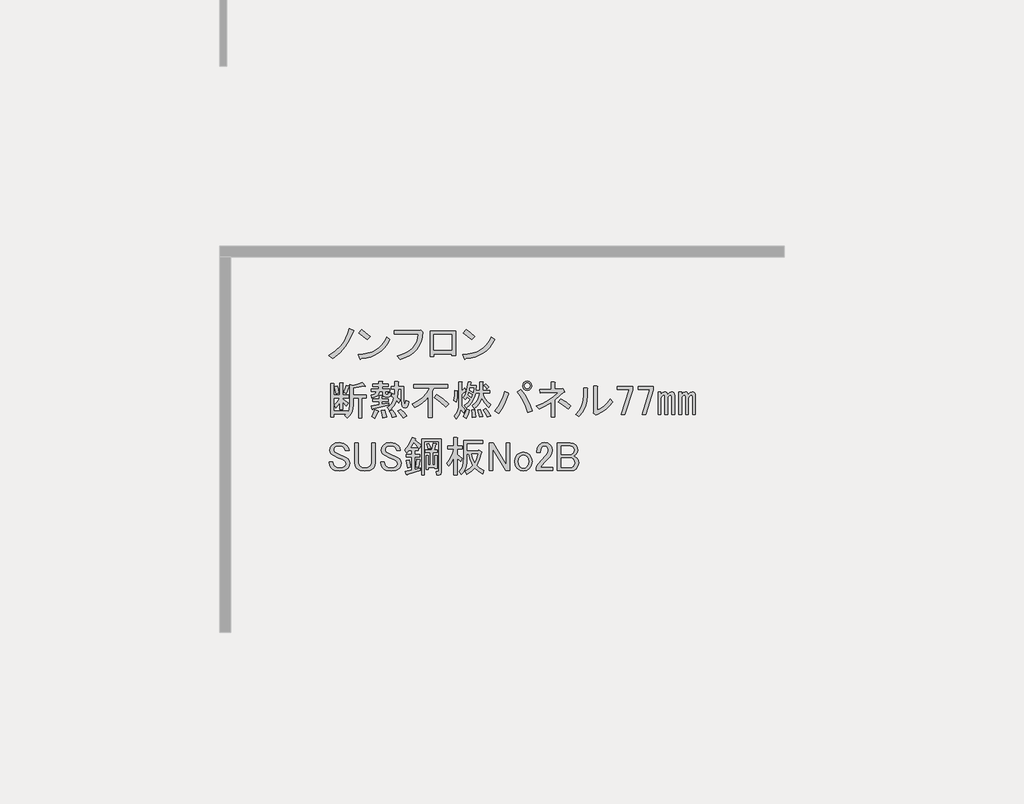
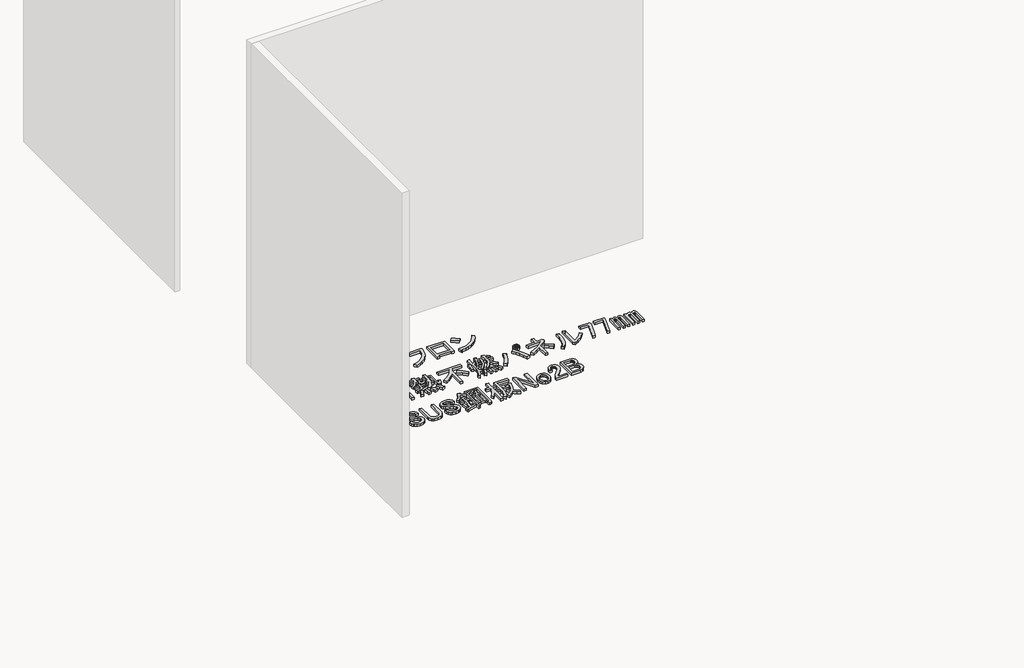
# One storey, part 27 of 117: 1 proxy.
"""IFC4 building model written with IfcOpenShell, lengths in millimetres."""

from ifc_helpers import new_model, si_unit, frame, origin, place, context, project, spatial, polyline, outline, extrude, element, save

model = new_model("IFC4")

# Units and contexts
model_context = context("Model", 3, world=origin())
ifc_project = project(units=[si_unit("LENGTHUNIT", "METRE", prefix="MILLI")], contexts=[model_context])

# Site, building, storey
site = spatial("IfcSite", under=ifc_project)
building = spatial("IfcBuilding", under=site)
storey = spatial("IfcBuildingStorey", under=building, Name="レベル 1", Elevation=500.0)

# Proxy
placement = place(None, origin())
element("IfcBuildingElementProxy", 1, Name="200㎜\u3000MS Pゴシック", ObjectType="200㎜\u3000MS Pゴシック", at=placement, inside=storey, context=model_context, shape_type="SweptSolid", body=[
    extrude(outline(polyline([(8943.6706985, -28607.0496882), (8918.0952502, -28666.8215225), (8889.646156, -28712.7998566), (8847.9782907, -28758.2034615), (8798.8389462, -28795.560858), (8771.2519457, -28773.7211493), (8818.9544673, -28743.2605029), (8858.6107805, -28704.7536481), (8875.9963381, -28680.8305462), (8891.3703435, -28652.7406577), (8904.7327969, -28620.4839827), (8916.0836981, -28584.0605212), (8947.1190736, -28597.8540214), (8950.2800841, -28602.4518548), (8943.6706985, -28607.0496882)])), frame((0.0, 0.0, 500.0), z_axis=(0.0, 0.0, 1.0), x_axis=(1.0, 0.0, 0.0)), (0.0, 0.0, 1.0), 25.0),
    extrude(outline(polyline([(9043.3977052, -28662.2236891), (8984.7753292, -28615.0958967), (9004.3161212, -28590.9572713), (9031.6157571, -28610.7854279), (9065.2374138, -28640.3839804), (9043.3977052, -28662.2236891)])), frame((0.0, 0.0, 500.0), z_axis=(0.0, 0.0, 1.0), x_axis=(1.0, 0.0, 0.0)), (0.0, 0.0, 1.0), 25.0),
    extrude(outline(polyline([(9205.4713328, -28662.2236891), (9188.947869, -28691.965924), (9169.8381239, -28717.9724192), (9148.1420975, -28740.2431748), (9123.8597898, -28758.7781907), (9096.9912008, -28773.577467), (9067.5363306, -28784.6410036), (9035.495179, -28791.9688006), (9000.8677461, -28795.560858), (8995.1204544, -28803.6070664), (8989.3731626, -28797.8597747), (8980.1774958, -28767.9738575), (9016.0082679, -28765.2977748), (9048.7857912, -28758.9937141), (9078.5100658, -28749.0616756), (9105.1810916, -28735.5016591), (9128.7988687, -28718.3136646), (9149.363397, -28697.4976923), (9166.8746766, -28673.053742), (9181.3327074, -28644.9818138), (9205.4713328, -28662.2236891)])), frame((0.0, 0.0, 500.0), z_axis=(0.0, 0.0, 1.0), x_axis=(1.0, 0.0, 0.0)), (0.0, 0.0, 1.0), 25.0),
    extrude(outline(polyline([(9256.2314136, -28777.1695243), (9290.014713, -28767.4889298), (9319.5234641, -28755.1142922), (9344.757667, -28740.0456116), (9365.7173217, -28722.282888), (9382.402428, -28701.8261214), (9394.8129862, -28678.6753118), (9402.9489961, -28652.8304591), (9406.8104577, -28624.2915635), (9234.3917049, -28624.2915635), (9234.3917049, -28599.0034798), (9409.1093744, -28599.0034798), (9425.2017914, -28595.5551047), (9437.8458332, -28607.0496882), (9434.325617, -28643.5449909), (9426.0638851, -28676.5919185), (9413.0606375, -28706.1904711), (9395.3158742, -28732.3406486), (9372.8295952, -28755.042451), (9345.6018005, -28774.2958784), (9313.6324901, -28790.1009308), (9276.921664, -28802.4576081), (9256.2314136, -28777.1695243)])), frame((0.0, 0.0, 500.0), z_axis=(0.0, 0.0, 1.0), x_axis=(1.0, 0.0, 0.0)), (0.0, 0.0, 1.0), 25.0),
    extrude(outline(polyline([(9670.955987, -28776.020066), (9644.5184449, -28776.020066), (9644.5184449, -28763.3760241), (9516.9285679, -28763.3760241), (9516.9285679, -28781.7673577), (9490.4910258, -28781.7673577), (9490.4910258, -28602.4518548), (9670.955987, -28602.4518548), (9670.955987, -28776.020066)]), holes=[polyline([(9516.9285679, -28627.7399386), (9516.9285679, -28738.0879404), (9644.5184449, -28738.0879404), (9644.5184449, -28627.7399386), (9516.9285679, -28627.7399386)])]), frame((0.0, 0.0, 500.0), z_axis=(0.0, 0.0, 1.0), x_axis=(1.0, 0.0, 0.0)), (0.0, 0.0, 1.0), 25.0),
    extrude(outline(polyline([(9947.0099049, -28662.2236891), (9930.4864411, -28691.965924), (9911.376696, -28717.9724192), (9889.6806696, -28740.2431748), (9865.3983619, -28758.7781907), (9838.5297729, -28773.577467), (9809.0749026, -28784.6410036), (9777.0337511, -28791.9688006), (9742.4063182, -28795.560858), (9736.6590264, -28803.6070664), (9730.9117347, -28797.8597747), (9721.7160679, -28767.9738575), (9757.5468399, -28765.2977748), (9790.3243633, -28758.9937141), (9820.0486378, -28749.0616756), (9846.7196637, -28735.5016591), (9870.3374407, -28718.3136646), (9890.9019691, -28697.4976923), (9908.4132486, -28673.053742), (9922.8712795, -28644.9818138), (9947.0099049, -28662.2236891)])), frame((0.0, 0.0, 500.0), z_axis=(0.0, 0.0, 1.0), x_axis=(1.0, 0.0, 0.0)), (0.0, 0.0, 1.0), 25.0),
    extrude(outline(polyline([(9784.9362772, -28662.2236891), (9726.3139013, -28615.0958967), (9745.8546933, -28590.9572713), (9773.1543291, -28610.7854279), (9806.7759859, -28640.3839804), (9784.9362772, -28662.2236891)])), frame((0.0, 0.0, 500.0), z_axis=(0.0, 0.0, 1.0), x_axis=(1.0, 0.0, 0.0)), (0.0, 0.0, 1.0), 25.0),
    extrude(outline(polyline([(8877.0021141, -29039.2345221), (8894.2439894, -28986.3594379), (8914.9342397, -28992.1067296), (8916.6584273, -28995.2677401), (8912.635323, -28997.8540214), (8895.3934477, -29046.1312722), (8877.0021141, -29039.2345221)])), frame((0.0, 0.0, 500.0), z_axis=(0.0, 0.0, 1.0), x_axis=(1.0, 0.0, 0.0)), (0.0, 0.0, 1.0), 25.0),
    extrude(outline(polyline([(9031.0295333, -28990.9572713), (9029.3053458, -28995.5551047), (9021.8338665, -28993.256188), (8944.8201569, -29005.9002299), (8944.8201569, -29055.326939), (9036.7768251, -29055.326939), (9036.7768251, -29077.1666477), (9005.7414495, -29077.1666477), (9005.7414495, -29217.4005666), (8982.7522825, -29217.4005666), (8982.7522825, -29077.1666477), (8944.8201569, -29077.1666477), (8944.8201569, -29126.5933568), (8942.2338756, -29154.3958807), (8934.4750317, -29179.1810764), (8921.5436253, -29200.948944), (8903.4396562, -29219.6994833), (8886.1977809, -29200.1586914), (8896.5429061, -29190.9630245), (8806.8851546, -29190.9630245), (8806.8851546, -29212.8027332), (8783.8959876, -29212.8027332), (8783.8959876, -28973.715396), (8805.7356963, -28973.715396), (8810.6208943, -28976.0143127), (8806.8851546, -28980.6121461), (8806.8851546, -29056.4763974), (8849.4151137, -29056.4763974), (8849.4151137, -28969.1175626), (8867.8064473, -28969.1175626), (8872.6916453, -28971.4164793), (8868.9559057, -28976.0143127), (8868.9559057, -29056.4763974), (8912.635323, -29056.4763974), (8912.635323, -29074.867731), (8868.9559057, -29074.867731), (8868.9559057, -29084.0633978), (8909.186948, -29110.5009399), (8895.3934477, -29132.3406486), (8868.9559057, -29105.9031065), (8868.9559057, -29158.7781907), (8849.4151137, -29158.7781907), (8849.4151137, -29110.5009399), (8836.1963426, -29130.3290965), (8821.8281132, -29146.1341488), (8809.1840713, -29127.7428152), (8831.02378, -29103.6041898), (8848.2656553, -29074.867731), (8806.8851546, -29074.867731), (8806.8851546, -29169.1233159), (8904.5891146, -29169.1233159), (8904.5891146, -29182.9168161), (8917.520521, -29158.7781907), (8921.8309898, -29125.4438985), (8921.8309898, -28980.6121461), (8943.6706985, -28986.3594379), (8979.8786366, -28978.8879586), (9010.339283, -28965.6691875), (9031.0295333, -28990.9572713)])), frame((0.0, 0.0, 500.0), z_axis=(0.0, 0.0, 1.0), x_axis=(1.0, 0.0, 0.0)), (0.0, 0.0, 1.0), 25.0),
    extrude(outline(polyline([(8822.9775716, -29047.2807305), (8810.3335297, -28996.7045631), (8829.8743217, -28989.8078129), (8837.6331656, -29013.9464383), (8842.5183636, -29040.3839804), (8822.9775716, -29047.2807305)])), frame((0.0, 0.0, 500.0), z_axis=(0.0, 0.0, 1.0), x_axis=(1.0, 0.0, 0.0)), (0.0, 0.0, 1.0), 25.0),
    extrude(outline(polyline([(9121.8367431, -29167.9738575), (9125.2851182, -29172.8590555), (9119.5378264, -29176.020066), (9109.7674304, -29201.5955143), (9098.8475761, -29220.8489417), (9075.858409, -29209.3543582), (9088.5024509, -29185.790462), (9098.8475761, -29158.7781907), (9121.8367431, -29167.9738575)])), frame((0.0, 0.0, 500.0), z_axis=(0.0, 0.0, 1.0), x_axis=(1.0, 0.0, 0.0)), (0.0, 0.0, 1.0), 25.0),
    extrude(outline(polyline([(9166.6656188, -29163.3760241), (9176.7233794, -29190.67566), (9181.6085774, -29212.8027332), (9152.8721186, -29218.550025), (9150.2858373, -29196.9976809), (9142.5269934, -29166.8243992), (9166.6656188, -29163.3760241)])), frame((0.0, 0.0, 500.0), z_axis=(0.0, 0.0, 1.0), x_axis=(1.0, 0.0, 0.0)), (0.0, 0.0, 1.0), 25.0),
    extrude(outline(polyline([(9281.611454, -29157.6287323), (9306.3248086, -29178.8937119), (9325.2908714, -29203.6070664), (9298.8533293, -29218.550025), (9279.5999019, -29188.9514724), (9260.9212037, -29169.1233159), (9281.611454, -29157.6287323)])), frame((0.0, 0.0, 500.0), z_axis=(0.0, 0.0, 1.0), x_axis=(1.0, 0.0, 0.0)), (0.0, 0.0, 1.0), 25.0),
    extrude(outline(polyline([(9222.9890781, -29216.2511083), (9214.655505, -29191.5377537), (9201.1493694, -29170.2727742), (9221.8396197, -29162.2265657), (9238.7941304, -29183.7789098), (9250.5760785, -29207.0554415), (9222.9890781, -29216.2511083)])), frame((0.0, 0.0, 500.0), z_axis=(0.0, 0.0, 1.0), x_axis=(1.0, 0.0, 0.0)), (0.0, 0.0, 1.0), 25.0),
    extrude(outline(polyline([(9083.9046175, -29153.0308989), (9081.8930654, -29157.9160969), (9078.1573257, -29156.479274), (9072.410034, -29132.3406486), (9127.5840349, -29124.2944401), (9127.5840349, -29101.3052731), (9083.9046175, -29101.3052731), (9083.9046175, -29082.9139395), (9127.5840349, -29082.9139395), (9127.5840349, -29059.9247724), (9145.9753685, -29059.9247724), (9150.8605665, -29062.2236891), (9147.1248268, -29066.8215225), (9147.1248268, -29082.9139395), (9191.9537026, -29082.9139395), (9191.9537026, -29101.3052731), (9147.1248268, -29101.3052731), (9147.1248268, -29120.8460651), (9197.7009943, -29111.6503983), (9197.7009943, -29127.7428152), (9083.9046175, -29153.0308989)])), frame((0.0, 0.0, 500.0), z_axis=(0.0, 0.0, 1.0), x_axis=(1.0, 0.0, 0.0)), (0.0, 0.0, 1.0), 25.0),
    extrude(outline(polyline([(9154.021577, -29031.1883136), (9128.7334932, -29031.1883136), (9124.1356598, -29048.6457123), (9113.7905346, -29061.9363245), (9097.6981177, -29071.0601502), (9075.858409, -29076.0171893), (9071.2605756, -29056.4763974), (9096.5486594, -29047.8554597), (9104.0201386, -29040.5276627), (9108.0432429, -29031.1883136), (9072.410034, -29031.1883136), (9072.410034, -29012.79698), (9126.4345765, -29012.79698), (9126.4345765, -28995.5551047), (9082.7551591, -28995.5551047), (9082.7551591, -28977.1637711), (9126.4345765, -28977.1637711), (9126.4345765, -28958.7724374), (9148.2742852, -28958.7724374), (9153.1594832, -28961.0713541), (9149.4237436, -28965.6691875), (9149.4237436, -28977.1637711), (9191.9537026, -28977.1637711), (9191.9537026, -28995.5551047), (9149.4237436, -28995.5551047), (9149.4237436, -29012.79698), (9202.2988277, -29012.79698), (9202.2988277, -29031.1883136), (9173.5623689, -29031.1883136), (9173.5623689, -29043.8323555), (9174.9991919, -29049.0049181), (9179.3096607, -29050.7291056), (9189.6547859, -29050.7291056), (9193.3905255, -29047.5680951), (9193.1031609, -29038.0850637), (9212.6439529, -29040.3839804), (9209.770307, -29061.9363245), (9204.4540622, -29067.3244106), (9196.551536, -29069.1204392), (9172.4129106, -29069.1204392), (9158.6194104, -29064.2352412), (9154.021577, -29049.5796472), (9154.021577, -29031.1883136)])), frame((0.0, 0.0, 500.0), z_axis=(0.0, 0.0, 1.0), x_axis=(1.0, 0.0, 0.0)), (0.0, 0.0, 1.0), 25.0),
    extrude(outline(polyline([(9285.0598291, -29013.9464383), (9263.2201204, -29013.9464383), (9258.622287, -29071.4193559), (9278.163079, -29089.8106896), (9267.8179538, -29111.6503983), (9251.7255369, -29095.5579813), (9232.4721095, -29133.2027424), (9202.2988277, -29165.6749408), (9185.0569525, -29144.9846905), (9200.1435933, -29133.0590601), (9213.2186821, -29117.9724192), (9224.2822187, -29099.7247679), (9233.3342033, -29078.316106), (9216.092328, -29063.3731475), (9224.1385364, -29046.1312722), (9237.9320367, -29056.4763974), (9240.2309534, -29013.9464383), (9212.6439529, -29013.9464383), (9212.6439529, -28995.5551047), (9240.2309534, -28995.5551047), (9240.2309534, -28961.0713541), (9262.0706621, -28961.0713541), (9266.95586, -28963.3702708), (9263.2201204, -28967.9681043), (9263.2201204, -28995.5551047), (9304.6006211, -28995.5551047), (9304.6006211, -29092.1096063), (9308.0489961, -29116.2482317), (9311.2818477, -29118.2597838), (9314.0836525, -29115.0987733), (9318.3941213, -29093.2590646), (9337.9349133, -29100.1558147), (9333.408921, -29126.9525626), (9325.578236, -29142.9731384), (9314.4428582, -29148.2175421), (9300.0027877, -29142.6857738), (9293.4652433, -29135.3579768), (9288.7955687, -29123.719711), (9285.0598291, -29087.5117729), (9285.0598291, -29013.9464383)])), frame((0.0, 0.0, 500.0), z_axis=(0.0, 0.0, 1.0), x_axis=(1.0, 0.0, 0.0)), (0.0, 0.0, 1.0), 25.0),
    extrude(outline(polyline([(9373.5681222, -28980.6121461), (9614.9543761, -28980.6121461), (9614.9543761, -29005.9002299), (9514.9514995, -29005.9002299), (9504.6063743, -29030.0388553), (9504.6063743, -29216.2511083), (9478.1688322, -29216.2511083), (9478.1688322, -29069.1204392), (9457.3348996, -29092.3969709), (9433.9146857, -29112.7998566), (9407.9081905, -29130.3290965), (9379.315414, -29144.9846905), (9363.222997, -29118.5471484), (9402.807469, -29098.1442626), (9436.500967, -29072.5688143), (9464.3034909, -29041.8208034), (9486.2150407, -29005.9002299), (9373.5681222, -29005.9002299), (9373.5681222, -28980.6121461)])), frame((0.0, 0.0, 500.0), z_axis=(0.0, 0.0, 1.0), x_axis=(1.0, 0.0, 0.0)), (0.0, 0.0, 1.0), 25.0),
    extrude(outline(polyline([(9600.0114176, -29141.5363154), (9560.9298336, -29103.3168252), (9519.5493329, -29073.7182726), (9535.6417498, -29053.0280223), (9579.3211672, -29081.1897519), (9620.7016679, -29119.6966067), (9600.0114176, -29141.5363154)])), frame((0.0, 0.0, 500.0), z_axis=(0.0, 0.0, 1.0), x_axis=(1.0, 0.0, 0.0)), (0.0, 0.0, 1.0), 25.0),
    extrude(outline(polyline([(9767.832337, -29163.3760241), (9759.2113993, -29193.8366704), (9744.8431699, -29220.8489417), (9725.3023779, -29208.2048998), (9739.3832427, -29183.4915453), (9749.4410033, -29155.3298156), (9767.832337, -29163.3760241)])), frame((0.0, 0.0, 500.0), z_axis=(0.0, 0.0, 1.0), x_axis=(1.0, 0.0, 0.0)), (0.0, 0.0, 1.0), 25.0),
    extrude(outline(polyline([(9682.7724189, -29025.4410219), (9687.3702523, -29027.7399386), (9682.7724189, -29032.337772), (9681.6229605, -29071.9940851), (9675.8756688, -29105.9031065), (9657.4843352, -29093.2590646), (9663.2316269, -29058.7753141), (9664.3810853, -29021.9926468), (9682.7724189, -29025.4410219)])), frame((0.0, 0.0, 500.0), z_axis=(0.0, 0.0, 1.0), x_axis=(1.0, 0.0, 0.0)), (0.0, 0.0, 1.0), 25.0),
    extrude(outline(polyline([(9734.4980447, -29007.0496882), (9743.6937116, -29024.2915635), (9745.1305345, -29030.3262199), (9740.2453365, -29030.0388553), (9713.8077944, -29050.7291056), (9713.8077944, -29134.6395653), (9727.6012946, -29146.9962426), (9739.0958781, -29163.3760241), (9726.4518363, -29184.0662744), (9708.0605026, -29158.7781907), (9696.2785545, -29194.6987642), (9674.7262104, -29224.2973168), (9659.7832519, -29205.9059831), (9674.8698927, -29187.1554438), (9685.6460648, -29166.5370346), (9692.111768, -29144.0507556), (9694.2670024, -29119.6966067), (9694.2670024, -28962.2208125), (9712.6583361, -28962.2208125), (9717.543534, -28964.5197292), (9713.8077944, -28969.1175626), (9713.8077944, -29027.7399386), (9734.4980447, -29007.0496882)])), frame((0.0, 0.0, 500.0), z_axis=(0.0, 0.0, 1.0), x_axis=(1.0, 0.0, 0.0)), (0.0, 0.0, 1.0), 25.0),
    extrude(outline(polyline([(9885.0770889, -28976.0143127), (9906.9167975, -29000.1529381), (9889.6749223, -29011.6475216), (9883.0655367, -29000.1529381), (9870.1341303, -28986.3594379), (9885.0770889, -28976.0143127)])), frame((0.0, 0.0, 500.0), z_axis=(0.0, 0.0, 1.0), x_axis=(1.0, 0.0, 0.0)), (0.0, 0.0, 1.0), 25.0),
    extrude(outline(polyline([(9895.422214, -29212.8027332), (9882.203443, -29184.6410036), (9865.5362969, -29159.927649), (9883.9276305, -29151.8814406), (9902.8936933, -29174.8706076), (9918.4113811, -29202.4576081), (9895.422214, -29212.8027332)])), frame((0.0, 0.0, 500.0), z_axis=(0.0, 0.0, 1.0), x_axis=(1.0, 0.0, 0.0)), (0.0, 0.0, 1.0), 25.0),
    extrude(outline(polyline([(9845.9955049, -29157.6287323), (9864.3868385, -29207.0554415), (9840.2482131, -29211.6532749), (9826.4547129, -29161.0771074), (9845.9955049, -29157.6287323)])), frame((0.0, 0.0, 500.0), z_axis=(0.0, 0.0, 1.0), x_axis=(1.0, 0.0, 0.0)), (0.0, 0.0, 1.0), 25.0),
    extrude(outline(polyline([(9787.3731289, -29215.1016499), (9787.9478581, -29188.0893787), (9785.0742122, -29159.927649), (9804.6150042, -29158.7781907), (9810.9370252, -29184.9283682), (9811.5117543, -29212.8027332), (9787.3731289, -29215.1016499)])), frame((0.0, 0.0, 500.0), z_axis=(0.0, 0.0, 1.0), x_axis=(1.0, 0.0, 0.0)), (0.0, 0.0, 1.0), 25.0),
    extrude(outline(polyline([(9906.9167975, -29142.6857738), (9876.1687866, -29112.2251274), (9855.1911717, -29078.316106), (9846.7857575, -29100.4431793), (9835.3630151, -29119.6966067), (9820.9229446, -29136.0763882), (9803.4655459, -29149.5825239), (9789.6720456, -29131.1911902), (9810.5059783, -29112.2969686), (9825.8799837, -29091.2475125), (9835.794062, -29068.042822), (9840.2482131, -29042.6828971), (9811.5117543, -29042.6828971), (9803.537387, -29073.2872258), (9789.9594102, -29100.7305439), (9770.777824, -29125.0128516), (9745.9926283, -29146.1341488), (9733.3485864, -29130.0417319), (9759.2113993, -29108.4893878), (9774.7290871, -29087.5117729), (9752.8893784, -29067.9709809), (9739.0958781, -29088.6612312), (9725.3023779, -29073.7182726), (9737.7308964, -29054.6803687), (9747.4294512, -29029.7514907), (9754.3980425, -28998.9316386), (9758.6366701, -28962.2208125), (9779.3269205, -28964.5197292), (9782.7752955, -28967.1060105), (9777.0280038, -28970.267021), (9774.7290871, -28988.6583546), (9818.4085044, -28988.6583546), (9814.9601294, -29024.2915635), (9840.2482131, -29024.2915635), (9840.2482131, -28962.2208125), (9862.0879218, -28962.2208125), (9866.9731198, -28964.5197292), (9863.2373802, -28969.1175626), (9863.2373802, -29024.2915635), (9912.6640893, -29024.2915635), (9912.6640893, -29042.6828971), (9863.2373802, -29042.6828971), (9869.7749245, -29064.4507647), (9881.3413492, -29084.9254916), (9897.9366542, -29104.1070778), (9919.5608394, -29121.9955234), (9906.9167975, -29142.6857738)]), holes=[polyline([(9782.7752955, -29072.5688143), (9789.6720456, -29053.0280223), (9764.3839619, -29036.9356054), (9758.6366701, -29054.1774807), (9782.7752955, -29072.5688143)]), polyline([(9772.4301704, -29007.0496882), (9768.9817953, -29023.1421052), (9794.269879, -29036.9356054), (9798.8677125, -29007.0496882), (9772.4301704, -29007.0496882)])]), frame((0.0, 0.0, 500.0), z_axis=(0.0, 0.0, 1.0), x_axis=(1.0, 0.0, 0.0)), (0.0, 0.0, 1.0), 25.0),
    extrude(outline(polyline([(10132.2106345, -29016.245355), (10158.8637001, -29052.9561812), (10181.3499791, -29090.6727833), (10199.6694716, -29129.3951616), (10213.8221775, -29169.1233159), (10182.786802, -29179.468441), (10167.3409554, -29136.3637528), (10149.7398744, -29097.856898), (10129.983559, -29063.9478766), (10108.0720092, -29034.6366887), (10132.2106345, -29016.245355)])), frame((0.0, 0.0, 500.0), z_axis=(0.0, 0.0, 1.0), x_axis=(1.0, 0.0, 0.0)), (0.0, 0.0, 1.0), 25.0),
    extrude(outline(polyline([(10044.8517998, -29042.6828971), (10048.874904, -29048.1428243), (10042.5528831, -29053.0280223), (10030.6272527, -29088.4457078), (10015.5406118, -29122.282888), (9997.2929605, -29154.539563), (9975.8842987, -29185.2157328), (9949.4467566, -29167.9738575), (9972.6514471, -29136.5074351), (9991.689351, -29103.0294606), (10006.5604684, -29067.539934), (10017.2647993, -29030.0388553), (10044.8517998, -29042.6828971)])), frame((0.0, 0.0, 500.0), z_axis=(0.0, 0.0, 1.0), x_axis=(1.0, 0.0, 0.0)), (0.0, 0.0, 1.0), 25.0),
    extrude(outline(polyline([(10178.1889686, -29021.9926468), (10165.5449268, -29019.6937301), (10155.1998016, -29012.79698), (10148.3030515, -29002.4518548), (10146.0041348, -28989.8078129), (10148.3030515, -28977.1637711), (10155.1998016, -28966.8186459), (10165.5449268, -28959.9218958), (10178.1889686, -28957.6229791), (10190.8330105, -28959.9218958), (10201.1781357, -28966.8186459), (10208.0748858, -28977.1637711), (10210.3738025, -28989.8078129), (10208.0748858, -29002.4518548), (10201.1781357, -29012.79698), (10190.8330105, -29019.6937301), (10178.1889686, -29021.9926468)]), holes=[polyline([(10178.1889686, -29010.4980633), (10186.5225417, -29009.0612403), (10193.1319272, -29004.7507715), (10197.442396, -28998.141386), (10198.879219, -28989.8078129), (10197.442396, -28981.4742399), (10193.1319272, -28974.8648544), (10186.5225417, -28970.5543855), (10178.1889686, -28969.1175626), (10169.8553956, -28970.5543855), (10163.2460101, -28974.8648544), (10158.9355412, -28981.4742399), (10157.4987183, -28989.8078129), (10158.9355412, -28998.141386), (10163.2460101, -29004.7507715), (10169.8553956, -29009.0612403), (10178.1889686, -29010.4980633)])]), frame((0.0, 0.0, 500.0), z_axis=(0.0, 0.0, 1.0), x_axis=(1.0, 0.0, 0.0)), (0.0, 0.0, 1.0), 25.0),
    extrude(outline(polyline([(10421.8741393, -29011.6475216), (10428.7708894, -29009.3486049), (10441.4149312, -29026.5904802), (10442.5643896, -29032.6251366), (10436.8170978, -29034.6366887), (10373.5968885, -29090.9601479), (10373.5968885, -29211.6532749), (10347.1593464, -29211.6532749), (10347.1593464, -29109.3514816), (10306.9283041, -29133.4901069), (10262.0994283, -29155.3298156), (10242.5586363, -29134.6395653), (10288.1059235, -29115.1706145), (10329.3427419, -29092.3969709), (10366.2690915, -29066.3186345), (10398.8849722, -29036.9356054), (10268.9961784, -29042.6828971), (10265.5478034, -29017.3948134), (10347.1593464, -29015.0958967), (10347.1593464, -28963.3702708), (10370.1485134, -28963.3702708), (10376.1831698, -28966.8186459), (10373.5968885, -28972.5659377), (10373.5968885, -29013.9464383), (10421.8741393, -29011.6475216)])), frame((0.0, 0.0, 500.0), z_axis=(0.0, 0.0, 1.0), x_axis=(1.0, 0.0, 0.0)), (0.0, 0.0, 1.0), 25.0),
    extrude(outline(polyline([(10467.8524733, -29155.3298156), (10430.7824415, -29126.0186277), (10397.7355139, -29104.7536481), (10414.9773892, -29082.9139395), (10453.7716085, -29106.1904711), (10487.3932653, -29132.3406486), (10467.8524733, -29155.3298156)])), frame((0.0, 0.0, 500.0), z_axis=(0.0, 0.0, 1.0), x_axis=(1.0, 0.0, 0.0)), (0.0, 0.0, 1.0), 25.0),
    extrude(outline(polyline([(10674.8469334, -29162.2265657), (10699.6321291, -29150.0135708), (10723.4115488, -29132.9153778), (10746.1851924, -29110.9319868), (10767.9530599, -29084.0633978), (10784.0454768, -29105.9031065), (10760.7689452, -29133.7056304), (10734.6187677, -29157.3413678), (10705.5949443, -29176.8103186), (10673.697475, -29192.1124829), (10664.5018082, -29196.7103163), (10646.1104746, -29182.9168161), (10648.4093913, -29177.1695243), (10648.4093913, -28992.1067296), (10672.5480167, -28992.1067296), (10678.2953084, -28995.5551047), (10674.8469334, -29001.3023965), (10674.8469334, -29162.2265657)])), frame((0.0, 0.0, 500.0), z_axis=(0.0, 0.0, 1.0), x_axis=(1.0, 0.0, 0.0)), (0.0, 0.0, 1.0), 25.0),
    extrude(outline(polyline([(10520.8195142, -29193.2619413), (10545.9639157, -29164.0225944), (10563.9242024, -29131.4785548), (10574.7003745, -29095.6298225), (10578.2924318, -29056.4763974), (10578.2924318, -29004.7507715), (10602.4310572, -29004.7507715), (10608.178349, -29008.1991466), (10604.7299739, -29013.9464383), (10604.7299739, -29055.326939), (10600.9223931, -29101.0897496), (10589.4996507, -29141.82368), (10570.4617468, -29177.5287301), (10543.8086812, -29208.2048998), (10520.8195142, -29193.2619413)])), frame((0.0, 0.0, 500.0), z_axis=(0.0, 0.0, 1.0), x_axis=(1.0, 0.0, 0.0)), (0.0, 0.0, 1.0), 25.0),
    extrude(outline(polyline([(10816.2303107, -28995.5551047), (10925.4288541, -28995.5551047), (10925.4288541, -29020.8431884), (10870.2548532, -29192.1124829), (10844.9667695, -29192.1124829), (10900.1407704, -29017.3948134), (10816.2303107, -29017.3948134), (10816.2303107, -28995.5551047)])), frame((0.0, 0.0, 500.0), z_axis=(0.0, 0.0, 1.0), x_axis=(1.0, 0.0, 0.0)), (0.0, 0.0, 1.0), 25.0),
    extrude(outline(polyline([(10963.3609797, -28995.5551047), (11072.5595232, -28995.5551047), (11072.5595232, -29020.8431884), (11017.3855223, -29192.1124829), (10992.0974385, -29192.1124829), (11047.2714394, -29017.3948134), (10963.3609797, -29017.3948134), (10963.3609797, -28995.5551047)])), frame((0.0, 0.0, 500.0), z_axis=(0.0, 0.0, 1.0), x_axis=(1.0, 0.0, 0.0)), (0.0, 0.0, 1.0), 25.0),
    extrude(outline(polyline([(11125.4346074, -29193.2619413), (11105.8938154, -29193.2619413), (11105.8938154, -29035.786147), (11125.4346074, -29035.786147), (11125.4346074, -29053.0280223), (11137.5039201, -29037.5103346), (11150.7226911, -29032.337772), (11159.9183579, -29033.7745949), (11166.8151081, -29038.0850637), (11173.7118582, -29051.878564), (11186.6432646, -29037.22297), (11200.1494003, -29032.337772), (11208.4829733, -29033.7745949), (11215.0923588, -29038.0850637), (11220.2649214, -29046.7060014), (11221.989109, -29058.7753141), (11221.989109, -29193.2619413), (11202.448317, -29193.2619413), (11202.448317, -29069.1204392), (11199.8620357, -29059.6374078), (11192.1031918, -29056.4763974), (11181.7580666, -29061.0742308), (11175.7234103, -29069.6951684), (11173.7118582, -29079.4655644), (11173.7118582, -29193.2619413), (11154.1710662, -29193.2619413), (11154.1710662, -29069.1204392), (11151.5847849, -29059.6374078), (11143.825941, -29056.4763974), (11133.4808158, -29061.0742308), (11127.4461595, -29069.6951684), (11125.4346074, -29079.4655644), (11125.4346074, -29193.2619413)])), frame((0.0, 0.0, 500.0), z_axis=(0.0, 0.0, 1.0), x_axis=(1.0, 0.0, 0.0)), (0.0, 0.0, 1.0), 25.0),
    extrude(outline(polyline([(11347.2800693, -29032.337772), (11355.6136424, -29033.7745949), (11362.2230279, -29038.0850637), (11367.3955905, -29046.7060014), (11369.119778, -29058.7753141), (11369.119778, -29193.2619413), (11349.578986, -29193.2619413), (11349.578986, -29069.1204392), (11346.9927047, -29059.6374078), (11339.2338609, -29056.4763974), (11328.8887357, -29061.0742308), (11322.8540793, -29069.6951684), (11320.8425272, -29079.4655644), (11320.8425272, -29193.2619413), (11301.3017352, -29193.2619413), (11301.3017352, -29069.1204392), (11298.715454, -29059.6374078), (11290.9566101, -29056.4763974), (11280.6114849, -29061.0742308), (11274.5768286, -29069.6951684), (11272.5652764, -29079.4655644), (11272.5652764, -29193.2619413), (11253.0244845, -29193.2619413), (11253.0244845, -29035.786147), (11272.5652764, -29035.786147), (11272.5652764, -29053.0280223), (11284.6345891, -29037.5103346), (11297.8533602, -29032.337772), (11307.049027, -29033.7745949), (11313.9457771, -29038.0850637), (11320.8425272, -29051.878564), (11333.7739337, -29037.22297), (11347.2800693, -29032.337772)])), frame((0.0, 0.0, 500.0), z_axis=(0.0, 0.0, 1.0), x_axis=(1.0, 0.0, 0.0)), (0.0, 0.0, 1.0), 25.0),
    extrude(outline(polyline([(8779.2981542, -29447.2807305), (8783.3212584, -29426.8778448), (8795.3905711, -29409.3486049), (8815.7934569, -29397.2792922), (8844.8172803, -29393.256188), (8876.1400204, -29397.8540214), (8898.8418228, -29411.6475216), (8910.9111355, -29429.1767615), (8914.9342397, -29449.5796472), (8888.4966976, -29449.5796472), (8886.1977809, -29436.9356054), (8879.3010308, -29426.5904802), (8866.0822598, -29418.8316363), (8847.116197, -29416.245355), (8826.7133112, -29418.5442717), (8813.7819048, -29425.4410219), (8807.7472484, -29434.0619595), (8805.7356963, -29443.8323555), (8810.3335297, -29458.7753141), (8831.02378, -29470.2698976), (8890.7956143, -29496.7074397), (8908.0374896, -29508.2020232), (8917.520521, -29521.9955234), (8920.6815315, -29538.0879404), (8916.6584273, -29559.3529199), (8904.5891146, -29577.1695243), (8894.6031951, -29584.7128448), (8881.8873121, -29590.1009308), (8848.2656553, -29594.4113996), (8814.6439985, -29589.238837), (8801.0660217, -29582.7731338), (8789.6432794, -29573.7211493), (8778.4360604, -29555.3298156), (8774.7003208, -29530.0417319), (8801.1378629, -29530.0417319), (8803.4367796, -29547.8583363), (8810.3335297, -29559.927649), (8826.4259466, -29569.4106804), (8849.4151137, -29572.5716909), (8870.3927286, -29569.698045), (8885.0483226, -29561.0771074), (8891.9450727, -29551.8814406), (8894.2439894, -29542.6857738), (8892.5198019, -29533.2027424), (8887.3472393, -29525.4438985), (8868.9559057, -29513.949315), (8839.0699885, -29500.1558147), (8805.7356963, -29485.2128562), (8789.6432794, -29474.867731), (8781.8844355, -29462.7984183), (8779.2981542, -29447.2807305)])), frame((0.0, 0.0, 500.0), z_axis=(0.0, 0.0, 1.0), x_axis=(1.0, 0.0, 0.0)), (0.0, 0.0, 1.0), 25.0),
    extrude(outline(polyline([(8954.7054987, -29395.5551047), (8981.1430408, -29395.5551047), (8981.1430408, -29533.4901069), (8983.7293221, -29548.1457009), (8991.488166, -29559.927649), (9007.0058537, -29569.4106804), (9028.2708332, -29572.5716909), (9049.5358128, -29569.4106804), (9065.0535005, -29559.927649), (9072.8123444, -29548.1457009), (9075.3986257, -29533.4901069), (9075.3986257, -29395.5551047), (9101.8361678, -29395.5551047), (9101.8361678, -29534.6395653), (9097.8130635, -29557.6287323), (9085.7437508, -29576.020066), (9075.2549434, -29584.0662744), (9062.1798546, -29589.8135662), (9028.2708332, -29594.4113996), (8994.3618119, -29589.8135662), (8981.2867231, -29584.0662744), (8970.7979156, -29576.020066), (8958.7286029, -29557.6287323), (8954.7054987, -29534.6395653), (8954.7054987, -29395.5551047)])), frame((0.0, 0.0, 500.0), z_axis=(0.0, 0.0, 1.0), x_axis=(1.0, 0.0, 0.0)), (0.0, 0.0, 1.0), 25.0),
    extrude(outline(polyline([(9144.1822135, -29447.2807305), (9148.2053177, -29426.8778448), (9160.2746304, -29409.3486049), (9180.6775161, -29397.2792922), (9209.7013395, -29393.256188), (9241.0240796, -29397.8540214), (9263.7258821, -29411.6475216), (9275.7951948, -29429.1767615), (9279.818299, -29449.5796472), (9253.3807569, -29449.5796472), (9251.0818402, -29436.9356054), (9244.1850901, -29426.5904802), (9230.966319, -29418.8316363), (9212.0002562, -29416.245355), (9191.5973705, -29418.5442717), (9178.665964, -29425.4410219), (9172.6313077, -29434.0619595), (9170.6197556, -29443.8323555), (9175.217589, -29458.7753141), (9195.9078393, -29470.2698976), (9255.6796736, -29496.7074397), (9272.9215489, -29508.2020232), (9282.4045803, -29521.9955234), (9285.5655908, -29538.0879404), (9281.5424865, -29559.3529199), (9269.4731738, -29577.1695243), (9259.4872544, -29584.7128448), (9246.7713714, -29590.1009308), (9213.1497146, -29594.4113996), (9179.5280578, -29589.238837), (9165.950081, -29582.7731338), (9154.5273386, -29573.7211493), (9143.3201197, -29555.3298156), (9139.5843801, -29530.0417319), (9166.0219222, -29530.0417319), (9168.3208389, -29547.8583363), (9175.217589, -29559.927649), (9191.3100059, -29569.4106804), (9214.2991729, -29572.5716909), (9235.2767879, -29569.698045), (9249.9323819, -29561.0771074), (9256.829132, -29551.8814406), (9259.1280487, -29542.6857738), (9257.4038611, -29533.2027424), (9252.2312986, -29525.4438985), (9233.8399649, -29513.949315), (9203.9540478, -29500.1558147), (9170.6197556, -29485.2128562), (9154.5273386, -29474.867731), (9146.7684948, -29462.7984183), (9144.1822135, -29447.2807305)])), frame((0.0, 0.0, 500.0), z_axis=(0.0, 0.0, 1.0), x_axis=(1.0, 0.0, 0.0)), (0.0, 0.0, 1.0), 25.0),
    extrude(outline(polyline([(9413.8451429, -29434.6366887), (9372.4646422, -29390.9572713), (9350.6249335, -29430.0388553), (9405.7989344, -29430.0388553), (9405.7989344, -29448.4301889), (9379.3613923, -29448.4301889), (9379.3613923, -29477.1666477), (9417.2935179, -29477.1666477), (9417.2935179, -29495.5579813), (9379.3613923, -29495.5579813), (9379.3613923, -29582.9168161), (9418.4429763, -29572.5716909), (9420.741893, -29592.1124829), (9328.7852248, -29617.4005666), (9326.4863081, -29623.1478584), (9321.8884747, -29619.6994833), (9314.9917246, -29596.7103163), (9359.8206003, -29587.5146495), (9359.8206003, -29495.5579813), (9321.8884747, -29495.5579813), (9321.8884747, -29477.1666477), (9359.8206003, -29477.1666477), (9359.8206003, -29448.4301889), (9337.9808916, -29448.4301889), (9323.037933, -29466.8215225), (9310.3938912, -29446.1312722), (9338.5556208, -29408.4865112), (9363.2689754, -29357.6229791), (9385.1086841, -29363.3702708), (9388.5570591, -29367.1060105), (9382.8097674, -29369.1175626), (9381.660309, -29372.5659377), (9426.4891847, -29410.4980633), (9413.8451429, -29434.6366887)])), frame((0.0, 0.0, 500.0), z_axis=(0.0, 0.0, 1.0), x_axis=(1.0, 0.0, 0.0)), (0.0, 0.0, 1.0), 25.0),
    extrude(outline(polyline([(9417.2935179, -29513.949315), (9419.8797992, -29517.1103254), (9416.1440596, -29519.6966067), (9408.0978511, -29566.8243992), (9389.7065175, -29564.5254825), (9395.4538092, -29510.5009399), (9417.2935179, -29513.949315)])), frame((0.0, 0.0, 500.0), z_axis=(0.0, 0.0, 1.0), x_axis=(1.0, 0.0, 0.0)), (0.0, 0.0, 1.0), 25.0),
    extrude(outline(polyline([(9340.2798083, -29515.0987733), (9351.7743918, -29566.8243992), (9331.0841415, -29572.5716909), (9319.589558, -29520.8460651), (9340.2798083, -29515.0987733)])), frame((0.0, 0.0, 500.0), z_axis=(0.0, 0.0, 1.0), x_axis=(1.0, 0.0, 0.0)), (0.0, 0.0, 1.0), 25.0),
    extrude(outline(polyline([(9481.6631856, -29397.8540214), (9488.8473003, -29413.0843446), (9494.3072275, -29433.4872303), (9477.0653522, -29439.2345221), (9465.5707687, -29402.4518548), (9481.6631856, -29397.8540214)])), frame((0.0, 0.0, 500.0), z_axis=(0.0, 0.0, 1.0), x_axis=(1.0, 0.0, 0.0)), (0.0, 0.0, 1.0), 25.0),
    extrude(outline(polyline([(9534.5382698, -29399.0034798), (9537.1245511, -29402.4518548), (9531.0898948, -29405.9002299), (9518.4458529, -29443.8323555), (9539.1361032, -29443.8323555), (9539.1361032, -29462.2236891), (9508.1007277, -29462.2236891), (9508.1007277, -29550.7319822), (9523.0436863, -29550.7319822), (9523.0436863, -29482.9139395), (9539.1361032, -29482.9139395), (9539.1361032, -29577.1695243), (9523.0436863, -29577.1695243), (9523.0436863, -29569.1233159), (9477.0653522, -29569.1233159), (9477.0653522, -29581.7673577), (9460.9729353, -29581.7673577), (9460.9729353, -29485.2128562), (9477.0653522, -29485.2128562), (9477.0653522, -29550.7319822), (9492.0083108, -29550.7319822), (9492.0083108, -29462.2236891), (9456.3751019, -29462.2236891), (9456.3751019, -29443.8323555), (9502.353436, -29443.8323555), (9512.6985611, -29394.4056463), (9534.5382698, -29399.0034798)])), frame((0.0, 0.0, 500.0), z_axis=(0.0, 0.0, 1.0), x_axis=(1.0, 0.0, 0.0)), (0.0, 0.0, 1.0), 25.0),
    extrude(outline(polyline([(9428.7881014, -29365.6691875), (9569.0220204, -29365.6691875), (9569.0220204, -29605.9059831), (9565.2862807, -29617.1132021), (9554.0790618, -29620.8489417), (9537.9866449, -29620.8489417), (9533.3888115, -29599.009233), (9544.883395, -29599.009233), (9548.33177, -29597.8597747), (9549.4812284, -29594.4113996), (9549.4812284, -29384.0605212), (9448.3288934, -29384.0605212), (9448.3288934, -29623.1478584), (9428.7881014, -29623.1478584), (9428.7881014, -29365.6691875)])), frame((0.0, 0.0, 500.0), z_axis=(0.0, 0.0, 1.0), x_axis=(1.0, 0.0, 0.0)), (0.0, 0.0, 1.0), 25.0),
    extrude(outline(polyline([(9657.5303135, -29623.1478584), (9657.5303135, -29503.6041898), (9639.713709, -29537.8005758), (9620.7476462, -29559.927649), (9609.2530627, -29539.2373987), (9626.494938, -29516.5355963), (9640.2884382, -29492.1096063), (9650.6335634, -29465.9594288), (9657.5303135, -29438.0850637), (9616.1498128, -29438.0850637), (9616.1498128, -29416.245355), (9657.5303135, -29416.245355), (9657.5303135, -29356.4735207), (9679.3700222, -29356.4735207), (9684.2552202, -29358.7724374), (9680.5194805, -29363.3702708), (9680.5194805, -29416.245355), (9718.4516061, -29416.245355), (9718.4516061, -29438.0850637), (9680.5194805, -29438.0850637), (9680.5194805, -29478.316106), (9718.4516061, -29504.7536481), (9708.106481, -29527.7428152), (9680.5194805, -29504.7536481), (9680.5194805, -29623.1478584), (9657.5303135, -29623.1478584)])), frame((0.0, 0.0, 500.0), z_axis=(0.0, 0.0, 1.0), x_axis=(1.0, 0.0, 0.0)), (0.0, 0.0, 1.0), 25.0),
    extrude(outline(polyline([(9740.2913148, -29594.4113996), (9769.0277736, -29577.1695243), (9790.8674823, -29555.3298156), (9773.0508779, -29513.3745858), (9763.2804819, -29472.5688143), (9750.63644, -29472.5688143), (9750.63644, -29496.7074397), (9748.193841, -29538.4471461), (9740.866044, -29572.8590555), (9728.653049, -29599.9431679), (9711.554856, -29619.6994833), (9697.7613558, -29596.7103163), (9710.8364446, -29579.3247587), (9720.1757937, -29557.0540032), (9725.7794031, -29529.8980496), (9727.647273, -29497.856898), (9727.647273, -29377.1637711), (9864.4328169, -29377.1637711), (9864.4328169, -29399.0034798), (9750.63644, -29399.0034798), (9750.63644, -29450.7291056), (9829.9490663, -29450.7291056), (9835.6963581, -29444.9818138), (9855.23715, -29458.7753141), (9856.673973, -29462.5110537), (9851.788775, -29466.8215225), (9839.4320977, -29513.3745858), (9820.7533995, -29554.1803573), (9839.7194623, -29572.5716909), (9871.329567, -29590.9630245), (9862.1339002, -29615.1016499), (9834.2595351, -29599.009233), (9805.8104409, -29573.7211493), (9781.3844509, -29598.1471392), (9749.4869817, -29618.550025), (9740.2913148, -29594.4113996)]), holes=[polyline([(9785.1201906, -29472.5688143), (9793.166399, -29505.6157419), (9805.8104409, -29533.4901069), (9818.4544828, -29507.3399294), (9826.5006912, -29472.5688143), (9785.1201906, -29472.5688143)])]), frame((0.0, 0.0, 500.0), z_axis=(0.0, 0.0, 1.0), x_axis=(1.0, 0.0, 0.0)), (0.0, 0.0, 1.0), 25.0),
    extrude(outline(polyline([(9908.1122342, -29395.5551047), (9936.848693, -29395.5551047), (10028.8053612, -29550.7319822), (10028.8053612, -29395.5551047), (10055.2429033, -29395.5551047), (10055.2429033, -29592.1124829), (10026.5064445, -29592.1124829), (9934.5497763, -29436.9356054), (9934.5497763, -29592.1124829), (9908.1122342, -29592.1124829), (9908.1122342, -29395.5551047)])), frame((0.0, 0.0, 500.0), z_axis=(0.0, 0.0, 1.0), x_axis=(1.0, 0.0, 0.0)), (0.0, 0.0, 1.0), 25.0),
    extrude(outline(polyline([(10088.3932822, -29527.7428152), (10093.2784802, -29500.4431793), (10107.9340742, -29478.316106), (10127.1875015, -29465.3846996), (10150.4640332, -29461.0742308), (10173.7405648, -29465.3846996), (10192.9939922, -29478.316106), (10207.6495862, -29500.4431793), (10212.5347842, -29527.7428152), (10207.6495862, -29555.042451), (10192.9939922, -29577.1695243), (10173.7405648, -29590.1009308), (10150.4640332, -29594.4113996), (10127.1875015, -29590.1009308), (10107.9340742, -29577.1695243), (10093.2784802, -29555.042451), (10088.3932822, -29527.7428152)]), holes=[polyline([(10150.4640332, -29481.7644811), (10137.8199913, -29484.0633978), (10127.4748661, -29490.9601479), (10117.129741, -29507.0525648), (10113.6813659, -29527.7428152), (10116.8423764, -29548.1457009), (10126.3254078, -29563.3760241), (10137.5326267, -29571.134868), (10150.4640332, -29573.7211493), (10163.3954396, -29571.134868), (10174.6026586, -29563.3760241), (10184.08569, -29548.1457009), (10187.2467004, -29527.7428152), (10183.7983254, -29507.0525648), (10173.4532002, -29490.9601479), (10163.1080751, -29484.0633978), (10150.4640332, -29481.7644811)])]), frame((0.0, 0.0, 500.0), z_axis=(0.0, 0.0, 1.0), x_axis=(1.0, 0.0, 0.0)), (0.0, 0.0, 1.0), 25.0),
    extrude(outline(polyline([(10245.3633147, -29462.2236891), (10249.9611481, -29430.900949), (10263.7546484, -29408.1991466), (10280.1344299, -29396.9919276), (10299.3878573, -29393.256188), (10322.0896597, -29396.9919276), (10339.6188996, -29408.1991466), (10350.8261185, -29424.8662927), (10354.5618582, -29444.9818138), (10350.2513893, -29470.8446268), (10337.3199829, -29493.2590646), (10303.9856907, -29531.1911902), (10285.594357, -29551.8814406), (10271.8008568, -29570.2727742), (10358.0102332, -29570.2727742), (10358.0102332, -29592.1124829), (10240.7654813, -29592.1124829), (10240.7654813, -29572.5716909), (10246.8001377, -29558.7781907), (10260.3062733, -29540.3868571), (10307.4340657, -29488.6612312), (10322.0896597, -29467.3962517), (10326.9748577, -29444.9818138), (10324.675941, -29432.337772), (10317.7791909, -29421.9926468), (10310.020347, -29416.8200842), (10300.5373156, -29415.0958967), (10291.916378, -29416.8200842), (10284.4448987, -29421.9926468), (10274.9618673, -29438.3724283), (10271.8008568, -29462.2236891), (10245.3633147, -29462.2236891)])), frame((0.0, 0.0, 500.0), z_axis=(0.0, 0.0, 1.0), x_axis=(1.0, 0.0, 0.0)), (0.0, 0.0, 1.0), 25.0),
    extrude(outline(polyline([(10392.4939838, -29395.5551047), (10484.4506519, -29395.5551047), (10505.4282669, -29399.2908443), (10522.3827776, -29410.4980633), (10532.7279027, -29426.5904802), (10536.1762778, -29447.2807305), (10533.0152673, -29464.2352412), (10523.5322359, -29478.316106), (10506.2903606, -29488.6612312), (10528.1300693, -29501.3052731), (10538.4751945, -29516.8229608), (10541.9235696, -29535.7890237), (10537.6131007, -29559.0655553), (10524.6816943, -29578.3189827), (10507.439819, -29588.6641078), (10483.3011936, -29592.1124829), (10392.4939838, -29592.1124829), (10392.4939838, -29395.5551047)]), holes=[polyline([(10418.9315259, -29417.3948134), (10418.9315259, -29478.316106), (10481.0022769, -29478.316106), (10491.6347666, -29476.3045539), (10500.5430689, -29470.2698976), (10507.439819, -29459.6374078), (10509.7387357, -29446.1312722), (10507.439819, -29434.3493241), (10500.5430689, -29424.2915635), (10492.784225, -29419.1190009), (10483.3011936, -29417.3948134), (10418.9315259, -29417.3948134)]), polyline([(10418.9315259, -29500.1558147), (10418.9315259, -29570.2727742), (10477.5539018, -29570.2727742), (10492.784225, -29567.9738575), (10503.9914439, -29561.0771074), (10511.7502878, -29549.5825239), (10514.3365691, -29535.7890237), (10512.0376524, -29521.4207942), (10505.1409023, -29510.5009399), (10493.0715896, -29502.742096), (10477.5539018, -29500.1558147), (10418.9315259, -29500.1558147)])]), frame((0.0, 0.0, 500.0), z_axis=(0.0, 0.0, 1.0), x_axis=(1.0, 0.0, 0.0)), (0.0, 0.0, 1.0), 25.0),
])

save(model, "model.ifc")
